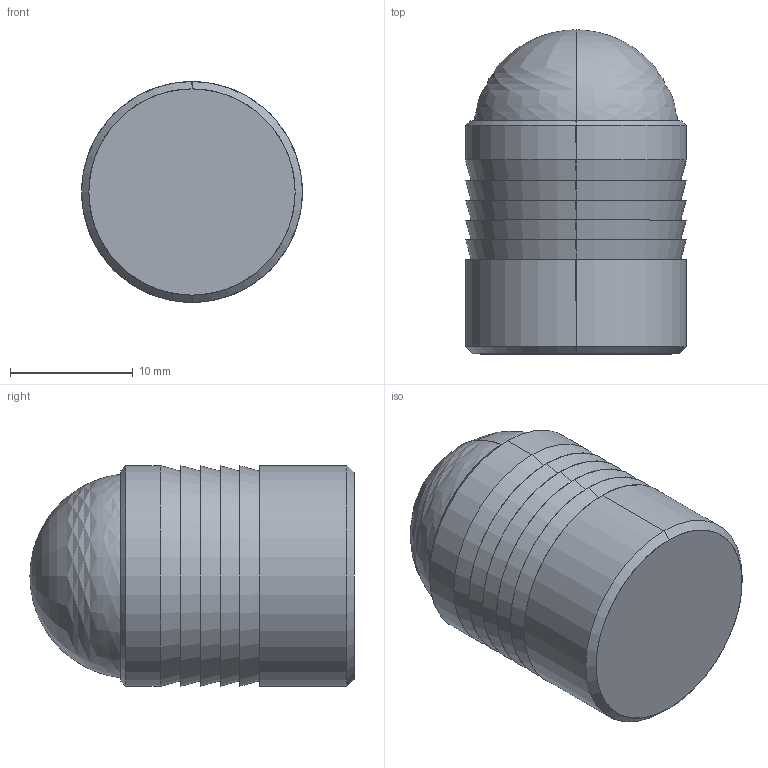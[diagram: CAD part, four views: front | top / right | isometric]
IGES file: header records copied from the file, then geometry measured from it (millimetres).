
Start section: SolidWorks IGES file using analytic representation for surfaces
Global section: file name: C:\Users\IanO\Desktop\P0190_v2\P0190_v2_20230321_IGES\P0190.180-ZP-BS.igs; native system: SolidWorks 2019; preprocessor: SolidWorks 2019; author: IanO; date: 231219.161204; units: millimetre
Bounding box: 18 x 26.4 x 18 mm (x, y, z)
Surface area: 2767.8 mm2 (no closed solid volume)
Topology: 0 solids, 0 shells, 29 faces, 504 edges, 502 vertices
Faces by surface type: revolution 22, bspline 7
